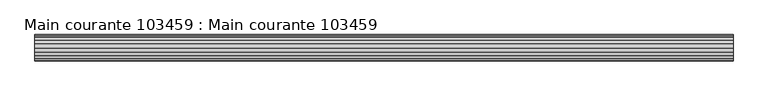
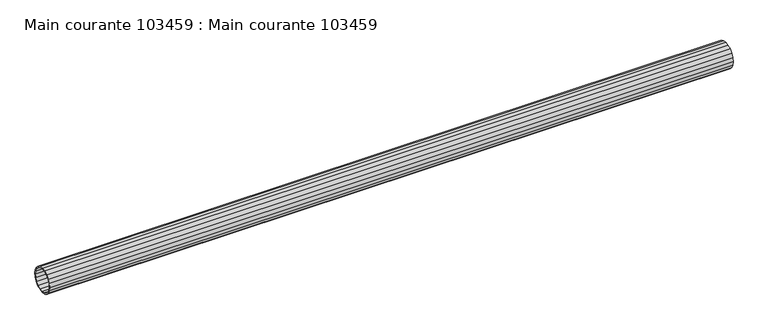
"""IFC4 building model written with IfcOpenShell, lengths in millimetres: beam geometry, Main courante 103459 : Main courante 103459."""

from ifc_helpers import new_model, si_unit, frame, origin, place, context, project, spatial, polyline, outline, extrude, source, transform, mapped, element, save


def main_courante_103459_main_courante_103459_5b2239d3(model_context):
    return source(origin(), model_context, "Body", "SweptSolid", [
        extrude(outline(polyline([(-35766.5, 8765.0), (-35765.3180149, 8772.4627604), (-35761.8877604, 8779.1950138), (-35756.5450138, 8784.5377604), (-35749.8127604, 8787.9680149), (-35742.35, 8789.15), (-35734.8872396, 8787.9680149), (-35728.1549862, 8784.5377604), (-35722.8122396, 8779.1950138), (-35719.3819851, 8772.4627604), (-35718.2, 8765.0), (-35719.3819851, 8757.5372396), (-35722.8122396, 8750.8049862), (-35728.1549862, 8745.4622396), (-35734.8872396, 8742.0319851), (-35742.35, 8740.85), (-35749.8127604, 8742.0319851), (-35756.5450138, 8745.4622396), (-35761.8877604, 8750.8049862), (-35765.3180149, 8757.5372396), (-35766.5, 8765.0)]), holes=[polyline([(-35764.0, 8765.0), (-35762.9403736, 8758.3097821), (-35759.8652179, 8752.2744493), (-35755.0755507, 8747.4847821), (-35749.0402179, 8744.4096264), (-35742.35, 8743.35), (-35735.6597821, 8744.4096264), (-35729.6244493, 8747.4847821), (-35724.8347821, 8752.2744493), (-35721.7596264, 8758.3097821), (-35720.7, 8765.0), (-35721.7596264, 8771.6902179), (-35724.8347821, 8777.7255507), (-35729.6244493, 8782.5152179), (-35735.6597821, 8785.5903736), (-35742.35, 8786.65), (-35749.0402179, 8785.5903736), (-35755.0755507, 8782.5152179), (-35759.8652179, 8777.7255507), (-35762.9403736, 8771.6902179), (-35764.0, 8765.0)])]), frame((8908.4999999, 0.0, 0.0), z_axis=(1.0, 0.0, 0.0), x_axis=(0.0, 1.0, 0.0)), (0.0, 0.0, 1.0), 1285.5),
    ])


if __name__ == "__main__":
    model = new_model("IFC4")
    model_context = context("Model", 3, world=origin())
    ifc_project = project(units=[si_unit("LENGTHUNIT", "METRE", prefix="MILLI")], contexts=[model_context])
    site = spatial("IfcSite", under=ifc_project)
    building = spatial("IfcBuilding", under=site)
    placement = place(None, origin())
    main_courante_103459_main_courante_103459_shape = main_courante_103459_main_courante_103459_5b2239d3(model_context)
    element("IfcBeam", 1, ObjectType="Main courante 103459 : Main courante 103459", at=placement, inside=building, context=model_context, shape_type="MappedRepresentation", body=[
        mapped(main_courante_103459_main_courante_103459_shape, transform((0.0, 0.0, 0.0), x_axis=(1.0, 0.0, 0.0), y_axis=(0.0, 1.0, 0.0), z_axis=(0.0, 0.0, 1.0))),
    ])
    save(model, "model.ifc")
